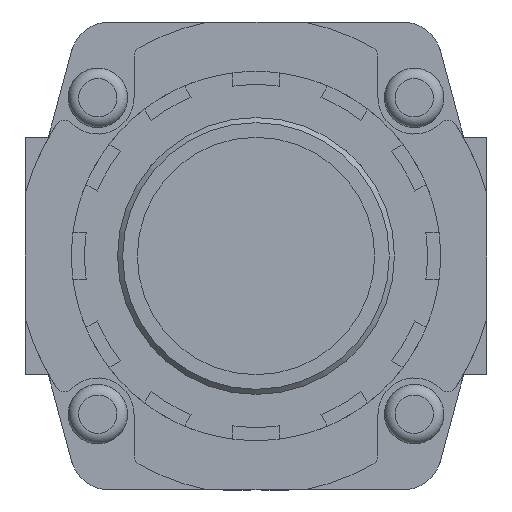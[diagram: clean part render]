
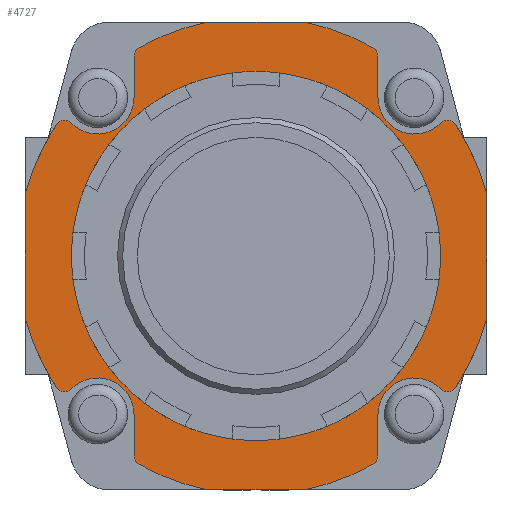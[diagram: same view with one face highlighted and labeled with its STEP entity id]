
A CAD part, front view. The second image highlights one B-rep face of the part: STEP entity #4727.
In plain terms, the highlighted planar face has unit normal (0, -1, 0).
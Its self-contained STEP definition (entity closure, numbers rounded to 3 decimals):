
#178=CIRCLE('',#5063,21.);
#179=CIRCLE('',#5064,2.9);
#180=CIRCLE('',#5065,36.25);
#181=CIRCLE('',#5066,1.5);
#182=CIRCLE('',#5067,5.5);
#183=CIRCLE('',#5068,1.5);
#184=CIRCLE('',#5069,36.25);
#185=CIRCLE('',#5070,36.25);
#186=CIRCLE('',#5071,1.5);
#187=CIRCLE('',#5072,5.5);
#188=CIRCLE('',#5073,1.5);
#189=CIRCLE('',#5074,36.25);
#190=CIRCLE('',#5075,36.25);
#191=CIRCLE('',#5076,1.5);
#192=CIRCLE('',#5077,5.5);
#193=CIRCLE('',#5078,1.5);
#194=CIRCLE('',#5079,36.25);
#195=CIRCLE('',#5080,36.25);
#196=CIRCLE('',#5081,1.5);
#197=CIRCLE('',#5082,5.5);
#198=CIRCLE('',#5083,1.5);
#199=CIRCLE('',#5084,36.25);
#957=ORIENTED_EDGE('',*,*,#1992,.F.);
#958=ORIENTED_EDGE('',*,*,#1993,.T.);
#959=ORIENTED_EDGE('',*,*,#1994,.F.);
#960=ORIENTED_EDGE('',*,*,#1995,.F.);
#961=ORIENTED_EDGE('',*,*,#1996,.F.);
#962=ORIENTED_EDGE('',*,*,#1997,.T.);
#963=ORIENTED_EDGE('',*,*,#1998,.F.);
#964=ORIENTED_EDGE('',*,*,#1999,.F.);
#965=ORIENTED_EDGE('',*,*,#2000,.F.);
#966=ORIENTED_EDGE('',*,*,#2001,.F.);
#967=ORIENTED_EDGE('',*,*,#2002,.F.);
#968=ORIENTED_EDGE('',*,*,#2003,.T.);
#969=ORIENTED_EDGE('',*,*,#2004,.F.);
#970=ORIENTED_EDGE('',*,*,#2005,.F.);
#971=ORIENTED_EDGE('',*,*,#2006,.F.);
#972=ORIENTED_EDGE('',*,*,#1984,.F.);
#973=ORIENTED_EDGE('',*,*,#2007,.F.);
#974=ORIENTED_EDGE('',*,*,#2008,.F.);
#975=ORIENTED_EDGE('',*,*,#2009,.F.);
#976=ORIENTED_EDGE('',*,*,#2010,.T.);
#977=ORIENTED_EDGE('',*,*,#2011,.F.);
#978=ORIENTED_EDGE('',*,*,#2012,.F.);
#979=ORIENTED_EDGE('',*,*,#2013,.F.);
#980=ORIENTED_EDGE('',*,*,#2014,.F.);
#981=ORIENTED_EDGE('',*,*,#2015,.F.);
#982=ORIENTED_EDGE('',*,*,#2016,.T.);
#983=ORIENTED_EDGE('',*,*,#2017,.F.);
#984=ORIENTED_EDGE('',*,*,#2018,.F.);
#985=ORIENTED_EDGE('',*,*,#2019,.F.);
#986=ORIENTED_EDGE('',*,*,#1962,.F.);
#1962=EDGE_CURVE('',#2538,#2539,#3053,.T.);
#1984=EDGE_CURVE('',#2560,#2561,#3075,.T.);
#1992=EDGE_CURVE('',#2568,#2569,#178,.T.);
#1993=EDGE_CURVE('',#2568,#2569,#179,.T.);
#1994=EDGE_CURVE('',#2570,#2538,#180,.T.);
#1995=EDGE_CURVE('',#2571,#2570,#181,.T.);
#1996=EDGE_CURVE('',#2572,#2571,#3083,.T.);
#1997=EDGE_CURVE('',#2572,#2573,#182,.T.);
#1998=EDGE_CURVE('',#2574,#2573,#183,.T.);
#1999=EDGE_CURVE('',#2575,#2574,#184,.T.);
#2000=EDGE_CURVE('',#2576,#2575,#3084,.T.);
#2001=EDGE_CURVE('',#2577,#2576,#185,.T.);
#2002=EDGE_CURVE('',#2578,#2577,#186,.T.);
#2003=EDGE_CURVE('',#2578,#2579,#187,.T.);
#2004=EDGE_CURVE('',#2580,#2579,#3085,.T.);
#2005=EDGE_CURVE('',#2581,#2580,#188,.T.);
#2006=EDGE_CURVE('',#2561,#2581,#189,.T.);
#2007=EDGE_CURVE('',#2582,#2560,#190,.T.);
#2008=EDGE_CURVE('',#2583,#2582,#191,.T.);
#2009=EDGE_CURVE('',#2584,#2583,#3086,.T.);
#2010=EDGE_CURVE('',#2584,#2585,#192,.T.);
#2011=EDGE_CURVE('',#2586,#2585,#193,.T.);
#2012=EDGE_CURVE('',#2587,#2586,#194,.T.);
#2013=EDGE_CURVE('',#2588,#2587,#3087,.T.);
#2014=EDGE_CURVE('',#2589,#2588,#195,.T.);
#2015=EDGE_CURVE('',#2590,#2589,#196,.T.);
#2016=EDGE_CURVE('',#2590,#2591,#197,.T.);
#2017=EDGE_CURVE('',#2592,#2591,#3088,.T.);
#2018=EDGE_CURVE('',#2593,#2592,#198,.T.);
#2019=EDGE_CURVE('',#2539,#2593,#199,.T.);
#2538=VERTEX_POINT('',#7399);
#2539=VERTEX_POINT('',#7400);
#2560=VERTEX_POINT('',#7444);
#2561=VERTEX_POINT('',#7445);
#2568=VERTEX_POINT('',#7461);
#2569=VERTEX_POINT('',#7462);
#2570=VERTEX_POINT('',#7465);
#2571=VERTEX_POINT('',#7467);
#2572=VERTEX_POINT('',#7469);
#2573=VERTEX_POINT('',#7471);
#2574=VERTEX_POINT('',#7473);
#2575=VERTEX_POINT('',#7475);
#2576=VERTEX_POINT('',#7477);
#2577=VERTEX_POINT('',#7479);
#2578=VERTEX_POINT('',#7481);
#2579=VERTEX_POINT('',#7483);
#2580=VERTEX_POINT('',#7485);
#2581=VERTEX_POINT('',#7487);
#2582=VERTEX_POINT('',#7490);
#2583=VERTEX_POINT('',#7492);
#2584=VERTEX_POINT('',#7494);
#2585=VERTEX_POINT('',#7496);
#2586=VERTEX_POINT('',#7498);
#2587=VERTEX_POINT('',#7500);
#2588=VERTEX_POINT('',#7502);
#2589=VERTEX_POINT('',#7504);
#2590=VERTEX_POINT('',#7506);
#2591=VERTEX_POINT('',#7508);
#2592=VERTEX_POINT('',#7510);
#2593=VERTEX_POINT('',#7512);
#3053=LINE('',#7398,#3539);
#3075=LINE('',#7443,#3561);
#3083=LINE('',#7468,#3569);
#3084=LINE('',#7476,#3570);
#3085=LINE('',#7484,#3571);
#3086=LINE('',#7493,#3572);
#3087=LINE('',#7501,#3573);
#3088=LINE('',#7509,#3574);
#3539=VECTOR('',#5946,1000.);
#3561=VECTOR('',#5970,1000.);
#3569=VECTOR('',#5988,1000.);
#3570=VECTOR('',#5995,1000.);
#3571=VECTOR('',#6002,1000.);
#3572=VECTOR('',#6011,1000.);
#3573=VECTOR('',#6018,1000.);
#3574=VECTOR('',#6025,1000.);
#3903=EDGE_LOOP('',(#957,#958));
#3904=EDGE_LOOP('',(#959,#960,#961,#962,#963,#964,#965,#966,#967,#968,#969,
#970,#971,#972,#973,#974,#975,#976,#977,#978,#979,#980,#981,#982,#983,#984,
#985,#986));
#4233=FACE_BOUND('',#3903,.T.);
#4234=FACE_BOUND('',#3904,.T.);
#4518=PLANE('',#5062);
#4727=ADVANCED_FACE('',(#4233,#4234),#4518,.F.);
#5062=AXIS2_PLACEMENT_3D('',#7459,#5978,#5979);
#5063=AXIS2_PLACEMENT_3D('',#7460,#5980,#5981);
#5064=AXIS2_PLACEMENT_3D('',#7463,#5982,#5983);
#5065=AXIS2_PLACEMENT_3D('',#7464,#5984,#5985);
#5066=AXIS2_PLACEMENT_3D('',#7466,#5986,#5987);
#5067=AXIS2_PLACEMENT_3D('',#7470,#5989,#5990);
#5068=AXIS2_PLACEMENT_3D('',#7472,#5991,#5992);
#5069=AXIS2_PLACEMENT_3D('',#7474,#5993,#5994);
#5070=AXIS2_PLACEMENT_3D('',#7478,#5996,#5997);
#5071=AXIS2_PLACEMENT_3D('',#7480,#5998,#5999);
#5072=AXIS2_PLACEMENT_3D('',#7482,#6000,#6001);
#5073=AXIS2_PLACEMENT_3D('',#7486,#6003,#6004);
#5074=AXIS2_PLACEMENT_3D('',#7488,#6005,#6006);
#5075=AXIS2_PLACEMENT_3D('',#7489,#6007,#6008);
#5076=AXIS2_PLACEMENT_3D('',#7491,#6009,#6010);
#5077=AXIS2_PLACEMENT_3D('',#7495,#6012,#6013);
#5078=AXIS2_PLACEMENT_3D('',#7497,#6014,#6015);
#5079=AXIS2_PLACEMENT_3D('',#7499,#6016,#6017);
#5080=AXIS2_PLACEMENT_3D('',#7503,#6019,#6020);
#5081=AXIS2_PLACEMENT_3D('',#7505,#6021,#6022);
#5082=AXIS2_PLACEMENT_3D('',#7507,#6023,#6024);
#5083=AXIS2_PLACEMENT_3D('',#7511,#6026,#6027);
#5084=AXIS2_PLACEMENT_3D('',#7513,#6028,#6029);
#5946=DIRECTION('',(-1.,0.,0.));
#5970=DIRECTION('',(1.,0.,0.));
#5978=DIRECTION('',(0.,1.,0.));
#5979=DIRECTION('',(0.,0.,1.));
#5980=DIRECTION('',(0.,-1.,0.));
#5981=DIRECTION('',(0.,0.,-1.));
#5982=DIRECTION('',(0.,1.,0.));
#5983=DIRECTION('',(0.,0.,1.));
#5984=DIRECTION('',(0.,1.,0.));
#5985=DIRECTION('',(1.,0.,0.));
#5986=DIRECTION('',(0.,1.,0.));
#5987=DIRECTION('',(1.,0.,0.));
#5988=DIRECTION('',(0.,0.,-1.));
#5989=DIRECTION('',(0.,1.,0.));
#5990=DIRECTION('',(1.,0.,0.));
#5991=DIRECTION('',(0.,1.,0.));
#5992=DIRECTION('',(1.,0.,0.));
#5993=DIRECTION('',(0.,1.,0.));
#5994=DIRECTION('',(1.,0.,0.));
#5995=DIRECTION('',(0.,0.,-1.));
#5996=DIRECTION('',(0.,1.,0.));
#5997=DIRECTION('',(1.,0.,0.));
#5998=DIRECTION('',(0.,1.,0.));
#5999=DIRECTION('',(1.,0.,0.));
#6000=DIRECTION('',(0.,1.,0.));
#6001=DIRECTION('',(1.,0.,0.));
#6002=DIRECTION('',(0.,0.,-1.));
#6003=DIRECTION('',(0.,1.,0.));
#6004=DIRECTION('',(1.,0.,0.));
#6005=DIRECTION('',(0.,1.,0.));
#6006=DIRECTION('',(0.,0.,1.));
#6007=DIRECTION('',(0.,1.,0.));
#6008=DIRECTION('',(1.,0.,0.));
#6009=DIRECTION('',(0.,1.,0.));
#6010=DIRECTION('',(1.,0.,0.));
#6011=DIRECTION('',(0.,0.,1.));
#6012=DIRECTION('',(0.,1.,0.));
#6013=DIRECTION('',(1.,0.,0.));
#6014=DIRECTION('',(0.,1.,0.));
#6015=DIRECTION('',(1.,0.,0.));
#6016=DIRECTION('',(0.,1.,0.));
#6017=DIRECTION('',(1.,0.,0.));
#6018=DIRECTION('',(0.,0.,1.));
#6019=DIRECTION('',(0.,1.,0.));
#6020=DIRECTION('',(1.,0.,0.));
#6021=DIRECTION('',(0.,1.,0.));
#6022=DIRECTION('',(1.,0.,0.));
#6023=DIRECTION('',(0.,1.,0.));
#6024=DIRECTION('',(1.,0.,0.));
#6025=DIRECTION('',(0.,0.,1.));
#6026=DIRECTION('',(0.,1.,0.));
#6027=DIRECTION('',(1.,0.,0.));
#6028=DIRECTION('',(0.,1.,0.));
#6029=DIRECTION('',(0.,0.,1.));
#7398=CARTESIAN_POINT('',(22.207,-35.5,-35.5));
#7399=CARTESIAN_POINT('',(7.336,-35.5,-35.5));
#7400=CARTESIAN_POINT('',(-7.336,-35.5,-35.5));
#7443=CARTESIAN_POINT('',(-22.207,-35.5,35.5));
#7444=CARTESIAN_POINT('',(-7.336,-35.5,35.5));
#7445=CARTESIAN_POINT('',(7.336,-35.5,35.5));
#7459=CARTESIAN_POINT('',(0.,-35.5,0.));
#7460=CARTESIAN_POINT('',(0.,-35.5,0.));
#7461=CARTESIAN_POINT('',(-20.8,-35.5,-2.893));
#7462=CARTESIAN_POINT('',(-20.8,-35.5,2.893));
#7463=CARTESIAN_POINT('',(-21.,-35.5,0.));
#7464=CARTESIAN_POINT('',(0.,-35.5,0.));
#7465=CARTESIAN_POINT('',(17.734,-35.5,-31.616));
#7466=CARTESIAN_POINT('',(17.,-35.5,-30.308));
#7467=CARTESIAN_POINT('',(18.5,-35.5,-30.308));
#7468=CARTESIAN_POINT('',(18.5,-35.5,-24.));
#7469=CARTESIAN_POINT('',(18.5,-35.5,-24.));
#7470=CARTESIAN_POINT('',(24.,-35.5,-24.));
#7471=CARTESIAN_POINT('',(27.942,-35.5,-20.165));
#7472=CARTESIAN_POINT('',(29.018,-35.5,-19.119));
#7473=CARTESIAN_POINT('',(30.27,-35.5,-19.944));
#7474=CARTESIAN_POINT('',(0.,-35.5,0.));
#7475=CARTESIAN_POINT('',(35.,-35.5,-9.437));
#7476=CARTESIAN_POINT('',(35.,-35.5,9.437));
#7477=CARTESIAN_POINT('',(35.,-35.5,9.437));
#7478=CARTESIAN_POINT('',(0.,-35.5,0.));
#7479=CARTESIAN_POINT('',(30.27,-35.5,19.944));
#7480=CARTESIAN_POINT('',(29.018,-35.5,19.119));
#7481=CARTESIAN_POINT('',(27.942,-35.5,20.165));
#7482=CARTESIAN_POINT('',(24.,-35.5,24.));
#7483=CARTESIAN_POINT('',(18.5,-35.5,24.));
#7484=CARTESIAN_POINT('',(18.5,-35.5,30.308));
#7485=CARTESIAN_POINT('',(18.5,-35.5,30.308));
#7486=CARTESIAN_POINT('',(17.,-35.5,30.308));
#7487=CARTESIAN_POINT('',(17.734,-35.5,31.616));
#7488=CARTESIAN_POINT('',(0.,-35.5,0.));
#7489=CARTESIAN_POINT('',(0.,-35.5,0.));
#7490=CARTESIAN_POINT('',(-17.734,-35.5,31.616));
#7491=CARTESIAN_POINT('',(-17.,-35.5,30.308));
#7492=CARTESIAN_POINT('',(-18.5,-35.5,30.308));
#7493=CARTESIAN_POINT('',(-18.5,-35.5,24.));
#7494=CARTESIAN_POINT('',(-18.5,-35.5,24.));
#7495=CARTESIAN_POINT('',(-24.,-35.5,24.));
#7496=CARTESIAN_POINT('',(-27.942,-35.5,20.165));
#7497=CARTESIAN_POINT('',(-29.018,-35.5,19.119));
#7498=CARTESIAN_POINT('',(-30.27,-35.5,19.944));
#7499=CARTESIAN_POINT('',(0.,-35.5,0.));
#7500=CARTESIAN_POINT('',(-35.,-35.5,9.437));
#7501=CARTESIAN_POINT('',(-35.,-35.5,-9.437));
#7502=CARTESIAN_POINT('',(-35.,-35.5,-9.437));
#7503=CARTESIAN_POINT('',(0.,-35.5,0.));
#7504=CARTESIAN_POINT('',(-30.27,-35.5,-19.944));
#7505=CARTESIAN_POINT('',(-29.018,-35.5,-19.119));
#7506=CARTESIAN_POINT('',(-27.942,-35.5,-20.165));
#7507=CARTESIAN_POINT('',(-24.,-35.5,-24.));
#7508=CARTESIAN_POINT('',(-18.5,-35.5,-24.));
#7509=CARTESIAN_POINT('',(-18.5,-35.5,-30.308));
#7510=CARTESIAN_POINT('',(-18.5,-35.5,-30.308));
#7511=CARTESIAN_POINT('',(-17.,-35.5,-30.308));
#7512=CARTESIAN_POINT('',(-17.734,-35.5,-31.616));
#7513=CARTESIAN_POINT('',(0.,-35.5,0.));
